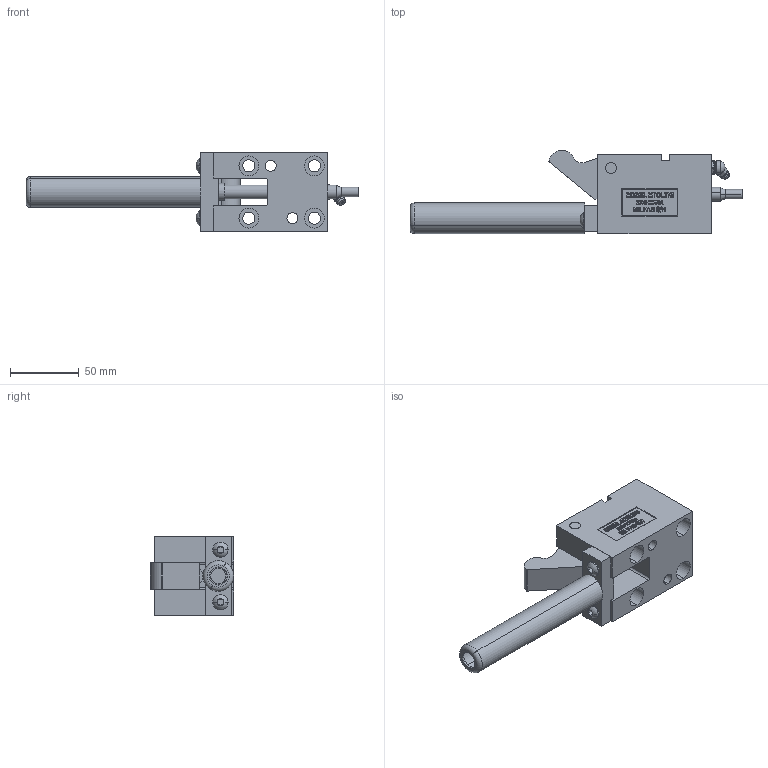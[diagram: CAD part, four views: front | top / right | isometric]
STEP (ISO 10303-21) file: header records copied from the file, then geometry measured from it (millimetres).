
FILE_DESCRIPTION (( 'STEP AP214' ), '1' );
FILE_NAME ('MTOL37545-O.STEP', '2014-01-08T20:06:38', ( 'user' ), ( '' ), 'SwSTEP 2.0', 'SolidWorks 2009', '' );
FILE_SCHEMA (( 'AUTOMOTIVE_DESIGN' ));
Length unit declared in the file: inch
Products named in the file (10): MTOL37545-O; MOL375-PUNCH; MTOL375-BODY; OL375-CAGE; M-O-375-POINT; 1-4 SCREW; 375 PIVOT PIN; 375-O-STRAP; GREASE ZERK; 375-OFFSET TRIGGER
Assembly tree (10 placements, depth 2):
  MTOL37545-O
    375 PIVOT PIN
    1-4 SCREW  x2
    M-O-375-POINT
    MTOL375-BODY
    375-O-STRAP
    GREASE ZERK
    MOL375-PUNCH
    OL375-CAGE
    375-OFFSET TRIGGER
Bounding box: 241.3 x 60.43 x 57.15 mm (x, y, z)
Volume: 236814.1 mm3; surface area: 74949.4 mm2
Topology: 10 solids, 10 shells, 602 faces, 1559 edges, 1026 vertices
Faces by surface type: plane 360, bspline 96, cylinder 94, cone 26, torus 22, sphere 4
Entity records: 23595 total; most frequent: CARTESIAN_POINT 9491, ORIENTED_EDGE 3030, DIRECTION 2463, EDGE_CURVE 1515, LINE 1013, VECTOR 1013, VERTEX_POINT 1000, AXIS2_PLACEMENT_3D 725
